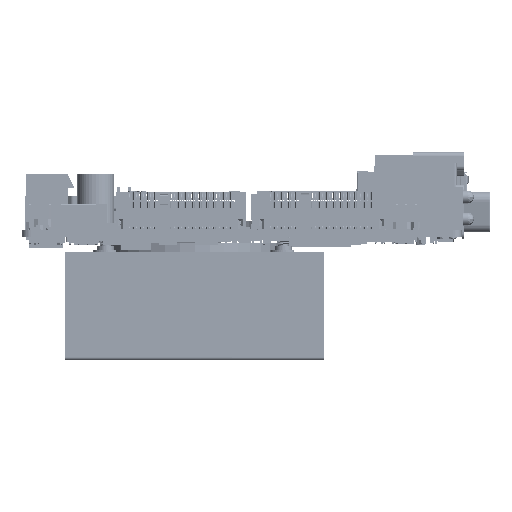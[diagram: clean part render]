
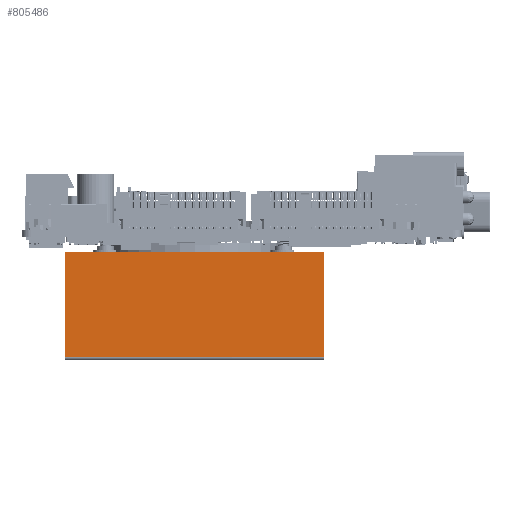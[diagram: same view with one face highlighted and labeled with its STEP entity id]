
A CAD part, left-side view. The second image highlights one B-rep face of the part: STEP entity #805486.
In plain terms, the highlighted planar face has unit normal (-1, 0, 0).
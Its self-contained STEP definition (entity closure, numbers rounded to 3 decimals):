
#780195=CARTESIAN_POINT('',(0.,26.405,-47.5));
#780197=DIRECTION('',(0.,-1.,0.));
#780198=VECTOR('',#780197,7.);
#780199=CARTESIAN_POINT('',(0.,9.,-47.5));
#780200=LINE('',#780199,#780198);
#783034=DIRECTION('',(0.,0.,1.));
#783035=VECTOR('',#783034,60.);
#783036=CARTESIAN_POINT('',(0.,2.,-47.5));
#783037=LINE('',#783036,#783035);
#787515=DIRECTION('',(0.,-1.,0.));
#787516=VECTOR('',#787515,7.);
#787517=CARTESIAN_POINT('',(0.,9.,12.5));
#787518=LINE('',#787517,#787516);
#787519=DIRECTION('',(0.,1.,0.));
#787520=VECTOR('',#787519,17.405);
#787521=CARTESIAN_POINT('',(0.,9.,-47.5));
#787522=LINE('',#787521,#787520);
#787523=DIRECTION('',(0.,-1.,0.));
#787524=VECTOR('',#787523,17.405);
#787525=CARTESIAN_POINT('',(0.,26.405,12.5));
#787526=LINE('',#787525,#787524);
#787531=DIRECTION('',(0.,0.,-1.));
#787532=VECTOR('',#787531,60.);
#787533=CARTESIAN_POINT('',(0.,26.405,12.5));
#787534=LINE('',#787533,#787532);
#789318=CARTESIAN_POINT('',(0.,2.,12.5));
#789319=VERTEX_POINT('',#789318);
#789320=CARTESIAN_POINT('',(0.,9.,12.5));
#789321=VERTEX_POINT('',#789320);
#789322=CARTESIAN_POINT('',(0.,26.405,12.5));
#789323=VERTEX_POINT('',#789322);
#789768=VERTEX_POINT('',#780195);
#789769=CARTESIAN_POINT('',(0.,9.,-47.5));
#789770=VERTEX_POINT('',#789769);
#789771=CARTESIAN_POINT('',(0.,2.,-47.5));
#789772=VERTEX_POINT('',#789771);
#805472=CARTESIAN_POINT('',(0.,26.4,-47.5));
#805473=DIRECTION('',(-1.,0.,0.));
#805474=DIRECTION('',(0.,0.,1.));
#805475=AXIS2_PLACEMENT_3D('',#805472,#805473,#805474);
#805476=PLANE('',#805475);
#805477=ORIENTED_EDGE('',*,*,#793059,.T.);
#805478=ORIENTED_EDGE('',*,*,#796568,.F.);
#805479=ORIENTED_EDGE('',*,*,#794701,.F.);
#805480=ORIENTED_EDGE('',*,*,#794699,.T.);
#805482=ORIENTED_EDGE('',*,*,#805481,.F.);
#805483=ORIENTED_EDGE('',*,*,#793061,.T.);
#805484=EDGE_LOOP('',(#805477,#805478,#805479,#805480,#805482,#805483));
#805485=FACE_OUTER_BOUND('',#805484,.F.);
#805486=ADVANCED_FACE('',(#805485),#805476,.T.);
#793059=EDGE_CURVE('',#789321,#789319,#787518,.T.);
#793061=EDGE_CURVE('',#789323,#789321,#787526,.T.);
#794699=EDGE_CURVE('',#789770,#789768,#787522,.T.);
#794701=EDGE_CURVE('',#789770,#789772,#780200,.T.);
#796568=EDGE_CURVE('',#789772,#789319,#783037,.T.);
#805481=EDGE_CURVE('',#789323,#789768,#787534,.T.);
